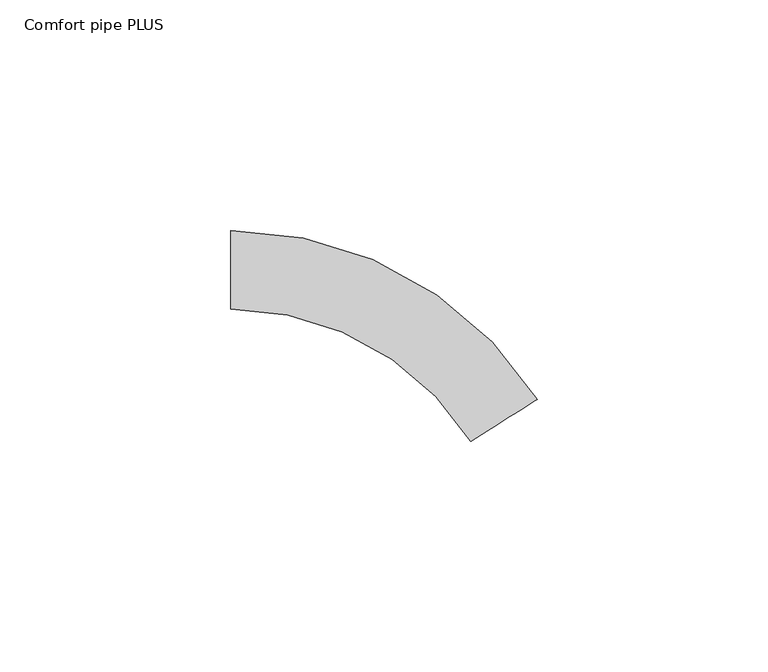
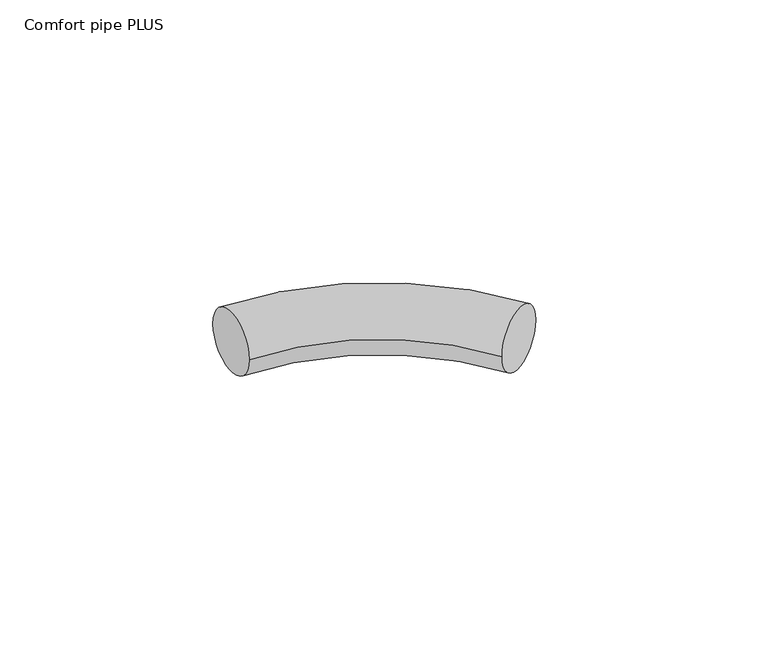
"""IFC4 building model written with IfcOpenShell, lengths in millimetres: pipe fitting geometry, 400_5-_Uponor_curved_Elbow : Comfort pipe PLUS."""

from ifc_helpers import new_model, si_unit, point, frame, origin, place, context, project, spatial, circle_curve, ellipse_curve, trimmed, source, transform, mapped, element, save
from ifc_brep_helpers import plane_surface, revolved_surface, advanced_brep


def comfort_pipe_plus_755e7ea2(model_context):
    return source(origin(), model_context, "Body", "AdvancedBrep", [
        advanced_brep(
        [(-38.5779409, 8.5, 0.0), (-38.5779409, -8.5, 0.0), (27.7893852, -28.0759256, 0.0), (13.4168433, -37.1550245, 0.0)],
        [
            (0, 1, circle_curve(frame((-38.5779409, 0.0, 0.0), z_axis=(-1.0, 0.0, 0.0), x_axis=(0.0, -1.0, 0.0)), 8.5)),
            (1, 0, circle_curve(frame((-38.5779409, 0.0, 0.0), z_axis=(-1.0, 0.0, 0.0), x_axis=(0.0, -1.0, 0.0)), 8.5)),
            (2, 3, circle_curve(frame((20.6031142, -32.615475, 0.0), z_axis=(0.5340646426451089, -0.845443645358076, 0.0), x_axis=(-0.845443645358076, -0.5340646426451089, 0.0)), 8.5)),
            (3, 2, circle_curve(frame((20.6031142, -32.615475, 0.0), z_axis=(0.5340646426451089, -0.845443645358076, 0.0), x_axis=(-0.845443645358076, -0.5340646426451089, 0.0)), 8.5)),
            (2, 0, circle_curve(frame((-38.5779409, -70.0, 0.0), z_axis=(0.0, 0.0, 1.0), x_axis=(0.0, 1.0, 0.0)), 78.5)),
            (1, 3, circle_curve(frame((-38.5779409, -70.0, 0.0), z_axis=(0.0, 0.0, -1.0), x_axis=(0.0, 1.0, 0.0)), 61.5)),
        ],
        [
            plane_surface(frame((-38.5779409, 0.0, 0.0), z_axis=(-1.0, 0.0, 0.0), x_axis=(0.0, 0.0, 1.0))),
            plane_surface(frame((20.6031142, -32.615475, 0.0), z_axis=(0.5340646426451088, -0.845443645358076, 0.0), x_axis=(0.0, 0.0, 1.0))),
            revolved_surface(trimmed(ellipse_curve(frame((-38.5779409, 0.0, 0.0), z_axis=(1.0, 0.0, 0.0), x_axis=(0.0, -1.0, 0.0)), 8.5, 8.5), [point((-38.5779409, 8.5, 0.0))], [point((-38.5779409, -8.5, 0.0))], True, "CARTESIAN"), (-38.5779409, -70.0, 0.0), (0.0, 0.0, 1.0)),
            revolved_surface(trimmed(ellipse_curve(frame((-38.5779409, 0.0, 0.0), z_axis=(1.0, 0.0, 0.0), x_axis=(0.0, -1.0, 0.0)), 8.5, 8.5), [point((-38.5779409, -8.5, 0.0))], [point((-38.5779409, 8.5, 0.0))], True, "CARTESIAN"), (-38.5779409, -70.0, 0.0), (0.0, 0.0, 1.0)),
        ],
        [
            (0, [[1, 2]]),
            (1, [[3, 4]]),
            (2, [[-3, 5, -2, 6]]),
            (3, [[-4, -6, -1, -5]]),
        ],
    ),
    ])


if __name__ == "__main__":
    model = new_model("IFC4")
    model_context = context("Model", 3, world=origin())
    ifc_project = project(units=[si_unit("LENGTHUNIT", "METRE", prefix="MILLI")], contexts=[model_context])
    site = spatial("IfcSite", under=ifc_project)
    building = spatial("IfcBuilding", under=site)
    placement = place(None, origin())
    comfort_pipe_plus_shape = comfort_pipe_plus_755e7ea2(model_context)
    element("IfcPipeFitting", 1, ObjectType="400_5-_Uponor_curved_Elbow : Comfort pipe PLUS", at=placement, inside=building, context=model_context, shape_type="MappedRepresentation", body=[
        mapped(comfort_pipe_plus_shape, transform((0.0, 0.0, 0.0), x_axis=(1.0, 0.0, 0.0), y_axis=(0.0, 1.0, 0.0), z_axis=(0.0, 0.0, 1.0))),
    ])
    save(model, "model.ifc")
